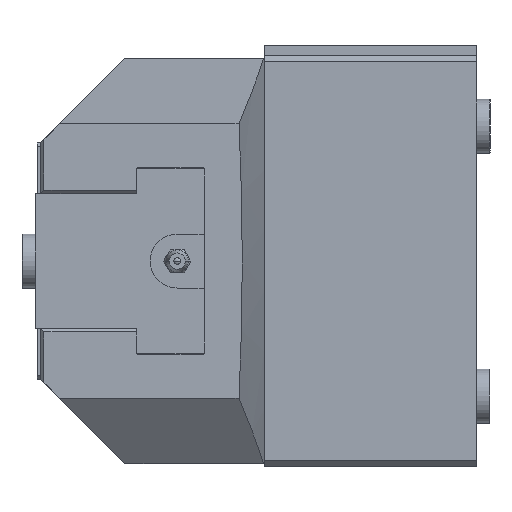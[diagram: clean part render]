
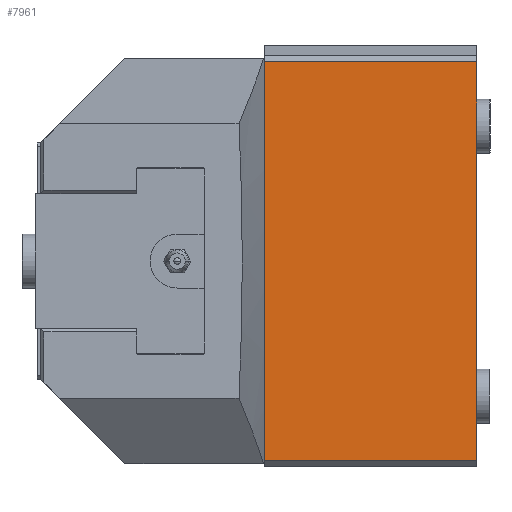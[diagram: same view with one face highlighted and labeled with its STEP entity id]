
A CAD part, left-side view. The second image highlights one B-rep face of the part: STEP entity #7961.
In plain terms, the highlighted planar face has unit normal (-1, 0, 0).
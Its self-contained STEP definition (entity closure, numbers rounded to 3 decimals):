
#426 = DIRECTION ( 'NONE',  ( 0., 0., 1. ) ) ;
#1131 = CARTESIAN_POINT ( 'NONE',  ( -93., 0., 59. ) ) ;
#1331 = VECTOR ( 'NONE', #426, 1000. ) ;
#1445 = LINE ( 'NONE', #10277, #5169 ) ;
#1491 = EDGE_LOOP ( 'NONE', ( #8817, #3690, #10190, #9431 ) ) ;
#1856 = EDGE_CURVE ( 'NONE', #12615, #16923, #13705, .T. ) ;
#2375 = FACE_OUTER_BOUND ( 'NONE', #1491, .T. ) ;
#2781 = EDGE_CURVE ( 'NONE', #9930, #3566, #11311, .T. ) ;
#3048 = CARTESIAN_POINT ( 'NONE',  ( -93., 62.9, -59. ) ) ;
#3203 = EDGE_CURVE ( 'NONE', #3566, #16923, #1445, .T. ) ;
#3566 = VERTEX_POINT ( 'NONE', #1131 ) ;
#3690 = ORIENTED_EDGE ( 'NONE', *, *, #3203, .T. ) ;
#5169 = VECTOR ( 'NONE', #7004, 1000. ) ;
#5488 = DIRECTION ( 'NONE',  ( 0., 0., 1. ) ) ;
#5503 = DIRECTION ( 'NONE',  ( 0., 0., -1. ) ) ;
#5588 = DIRECTION ( 'NONE',  ( 1., 0., 0. ) ) ;
#7004 = DIRECTION ( 'NONE',  ( 0., 1., 0. ) ) ;
#7038 = PLANE ( 'NONE',  #8426 ) ;
#7900 = CARTESIAN_POINT ( 'NONE',  ( -93., 62.9, 59. ) ) ;
#7961 = ADVANCED_FACE ( 'NONE', ( #2375 ), #7038, .F. ) ;
#8122 = LINE ( 'NONE', #17085, #16182 ) ;
#8426 = AXIS2_PLACEMENT_3D ( 'NONE', #12957, #5588, #5503 ) ;
#8817 = ORIENTED_EDGE ( 'NONE', *, *, #2781, .T. ) ;
#9431 = ORIENTED_EDGE ( 'NONE', *, *, #16070, .T. ) ;
#9930 = VERTEX_POINT ( 'NONE', #11686 ) ;
#10190 = ORIENTED_EDGE ( 'NONE', *, *, #1856, .F. ) ;
#10277 = CARTESIAN_POINT ( 'NONE',  ( -93., 62.9, 59. ) ) ;
#11311 = LINE ( 'NONE', #17177, #13444 ) ;
#11686 = CARTESIAN_POINT ( 'NONE',  ( -93., 0., -59. ) ) ;
#12615 = VERTEX_POINT ( 'NONE', #3048 ) ;
#12957 = CARTESIAN_POINT ( 'NONE',  ( -93., 62.9, 64. ) ) ;
#13444 = VECTOR ( 'NONE', #5488, 1000. ) ;
#13705 = LINE ( 'NONE', #14845, #1331 ) ;
#14845 = CARTESIAN_POINT ( 'NONE',  ( -93., 62.9, 64. ) ) ;
#16070 = EDGE_CURVE ( 'NONE', #12615, #9930, #8122, .T. ) ;
#16182 = VECTOR ( 'NONE', #18608, 1000. ) ;
#16923 = VERTEX_POINT ( 'NONE', #7900 ) ;
#17085 = CARTESIAN_POINT ( 'NONE',  ( -93., 62.9, -59. ) ) ;
#17177 = CARTESIAN_POINT ( 'NONE',  ( -93., 0., 64. ) ) ;
#18608 = DIRECTION ( 'NONE',  ( 0., -1., 0. ) ) ;
